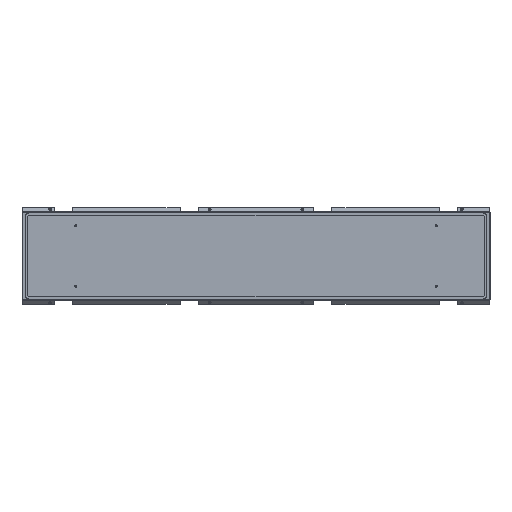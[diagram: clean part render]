
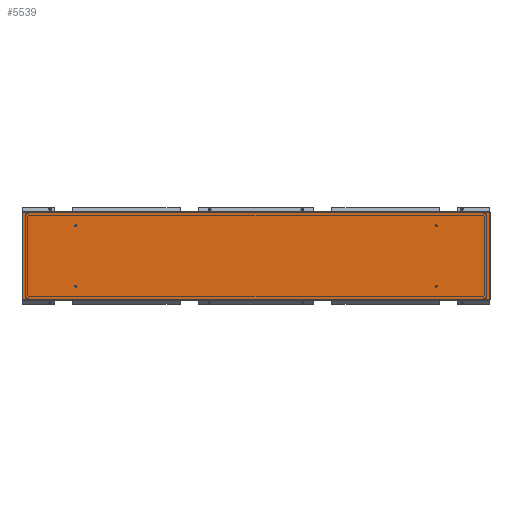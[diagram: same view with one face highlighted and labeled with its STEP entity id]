
A CAD part, left-side view. The second image highlights one B-rep face of the part: STEP entity #5539.
In plain terms, the highlighted planar face has unit normal (-1, 0, 0) as drawn and (0, 0, 1) by its records, which use the part's own axes.
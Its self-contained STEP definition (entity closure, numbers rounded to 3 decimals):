
#334 = VERTEX_POINT ( 'NONE', #1686 ) ;
#362 = CARTESIAN_POINT ( 'NONE',  ( -162.75, 870.5, 0. ) ) ;
#370 = VERTEX_POINT ( 'NONE', #4353 ) ;
#443 = PLANE ( 'NONE',  #2936 ) ;
#488 = VECTOR ( 'NONE', #8033, 1000. ) ;
#575 = FACE_OUTER_BOUND ( 'NONE', #8364, .T. ) ;
#826 = DIRECTION ( 'NONE',  ( 0., 1., 0. ) ) ;
#893 = CARTESIAN_POINT ( 'NONE',  ( -162.75, -870.5, 0. ) ) ;
#1486 = CARTESIAN_POINT ( 'NONE',  ( 162.75, -870.5, 0. ) ) ;
#1686 = CARTESIAN_POINT ( 'NONE',  ( 162.75, 870.5, 0. ) ) ;
#1902 = CARTESIAN_POINT ( 'NONE',  ( -162.75, -870.5, 0. ) ) ;
#2268 = VERTEX_POINT ( 'NONE', #8335 ) ;
#2473 = EDGE_CURVE ( 'NONE', #334, #8147, #3543, .T. ) ;
#2936 = AXIS2_PLACEMENT_3D ( 'NONE', #7069, #3822, #8522 ) ;
#3390 = VECTOR ( 'NONE', #5433, 1000. ) ;
#3543 = LINE ( 'NONE', #4738, #3390 ) ;
#3822 = DIRECTION ( 'NONE',  ( 0., 0., -1. ) ) ;
#4353 = CARTESIAN_POINT ( 'NONE',  ( 162.75, -870.5, 0. ) ) ;
#4416 = VECTOR ( 'NONE', #826, 1000. ) ;
#4646 = ORIENTED_EDGE ( 'NONE', *, *, #2473, .T. ) ;
#4738 = CARTESIAN_POINT ( 'NONE',  ( -162.75, 870.5, 0. ) ) ;
#4843 = LINE ( 'NONE', #893, #5130 ) ;
#5130 = VECTOR ( 'NONE', #7615, 1000. ) ;
#5433 = DIRECTION ( 'NONE',  ( -1., 0., 0. ) ) ;
#5539 = ADVANCED_FACE ( 'NONE', ( #575 ), #443, .F. ) ;
#5543 = ORIENTED_EDGE ( 'NONE', *, *, #7921, .T. ) ;
#6417 = ORIENTED_EDGE ( 'NONE', *, *, #7310, .T. ) ;
#6576 = LINE ( 'NONE', #1902, #488 ) ;
#7069 = CARTESIAN_POINT ( 'NONE',  ( 0., 0., 0. ) ) ;
#7310 = EDGE_CURVE ( 'NONE', #2268, #370, #6576, .T. ) ;
#7453 = LINE ( 'NONE', #1486, #4416 ) ;
#7563 = EDGE_CURVE ( 'NONE', #370, #334, #7453, .T. ) ;
#7583 = ORIENTED_EDGE ( 'NONE', *, *, #7563, .T. ) ;
#7615 = DIRECTION ( 'NONE',  ( 0., -1., 0. ) ) ;
#7921 = EDGE_CURVE ( 'NONE', #8147, #2268, #4843, .T. ) ;
#8033 = DIRECTION ( 'NONE',  ( 1., 0., 0. ) ) ;
#8147 = VERTEX_POINT ( 'NONE', #362 ) ;
#8335 = CARTESIAN_POINT ( 'NONE',  ( -162.75, -870.5, 0. ) ) ;
#8364 = EDGE_LOOP ( 'NONE', ( #7583, #4646, #5543, #6417 ) ) ;
#8522 = DIRECTION ( 'NONE',  ( -1., 0., 0. ) ) ;
